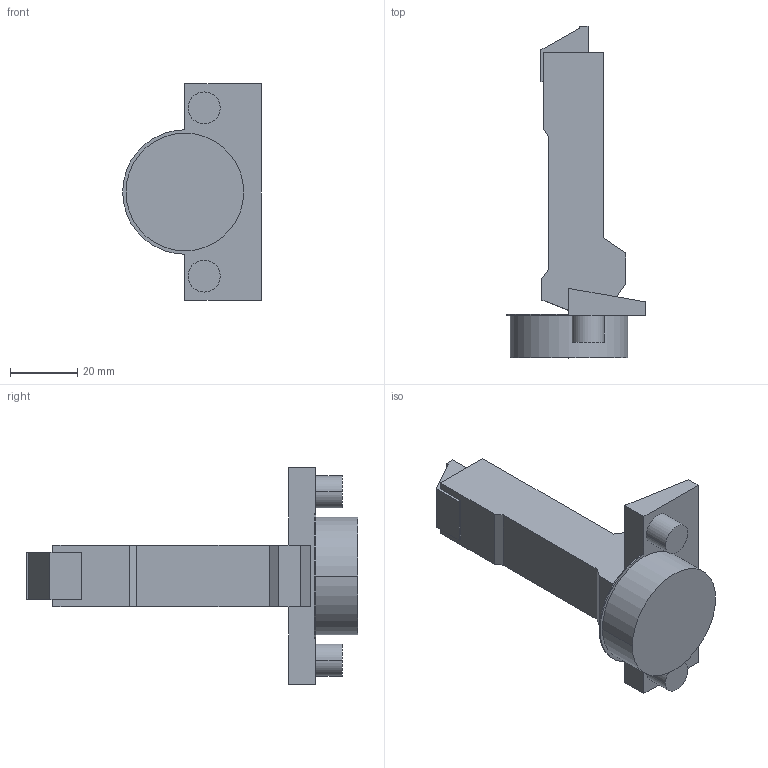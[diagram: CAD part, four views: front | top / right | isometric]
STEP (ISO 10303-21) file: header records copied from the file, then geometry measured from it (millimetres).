
FILE_DESCRIPTION (( 'STEP AP214' ), '1' );
FILE_NAME ('Scharnier TS Impresso 95° HS_BB, K95.step', '2010-12-06T09:52:07', ( 'grass' ), ( '' ), 'SwSTEP 2.0', 'SolidWorks 2010', '' );
FILE_SCHEMA (( 'AUTOMOTIVE_DESIGN' ));
Length unit declared in the file: millimetre
Products named in the file (1): Scharnier TS Impresso 95° HS_BB, K95
Bounding box: 41.25 x 98.7 x 64.5 mm (x, y, z)
Volume: 47405.7 mm3; surface area: 12998.3 mm2
Topology: 1 solids, 3 shells, 58 faces, 138 edges, 92 vertices
Faces by surface type: plane 41, cylinder 17
Entity records: 1706 total; most frequent: DIRECTION 290, CARTESIAN_POINT 289, ORIENTED_EDGE 276, EDGE_CURVE 138, LINE 104, VECTOR 104, AXIS2_PLACEMENT_3D 93, VERTEX_POINT 92
